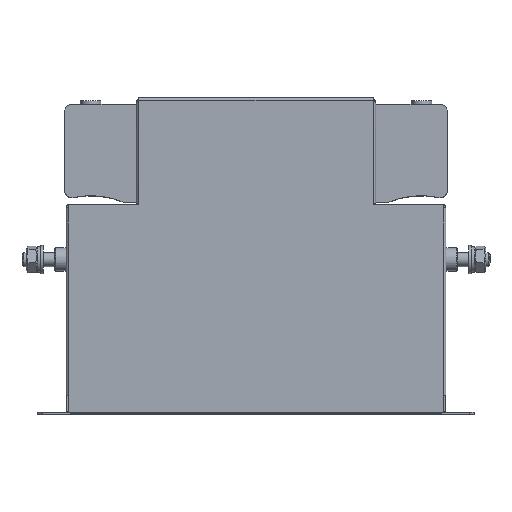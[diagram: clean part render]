
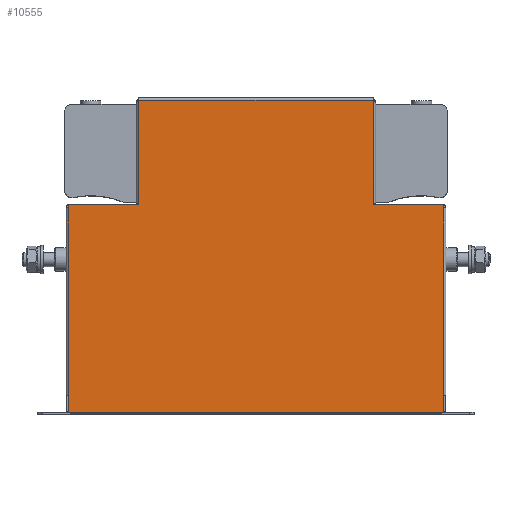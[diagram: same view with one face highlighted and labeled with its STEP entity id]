
A CAD part, top view. The second image highlights one B-rep face of the part: STEP entity #10555.
In plain terms, the highlighted planar face has unit normal (0, 0, 1).
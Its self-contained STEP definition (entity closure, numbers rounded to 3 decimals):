
#1181=FACE_OUTER_BOUND('',#1896,.T.);
#1896=EDGE_LOOP('',(#8628,#8629,#8630,#8631,#8632,#8633,#8634,#8635,#8636,
#8637));
#2978=LINE('',#17372,#3990);
#2979=LINE('',#17374,#3991);
#2980=LINE('',#17376,#3992);
#2981=LINE('',#17378,#3993);
#2982=LINE('',#17380,#3994);
#2983=LINE('',#17382,#3995);
#2984=LINE('',#17384,#3996);
#2985=LINE('',#17386,#3997);
#2986=LINE('',#17388,#3998);
#2987=LINE('',#17389,#3999);
#3990=VECTOR('',#13778,10.);
#3991=VECTOR('',#13779,10.);
#3992=VECTOR('',#13780,10.);
#3993=VECTOR('',#13781,10.);
#3994=VECTOR('',#13782,10.);
#3995=VECTOR('',#13783,10.);
#3996=VECTOR('',#13784,10.);
#3997=VECTOR('',#13785,10.);
#3998=VECTOR('',#13786,10.);
#3999=VECTOR('',#13787,10.);
#4832=VERTEX_POINT('',#17370);
#4833=VERTEX_POINT('',#17371);
#4834=VERTEX_POINT('',#17373);
#4835=VERTEX_POINT('',#17375);
#4836=VERTEX_POINT('',#17377);
#4837=VERTEX_POINT('',#17379);
#4838=VERTEX_POINT('',#17381);
#4839=VERTEX_POINT('',#17383);
#4840=VERTEX_POINT('',#17385);
#4841=VERTEX_POINT('',#17387);
#6133=EDGE_CURVE('',#4832,#4833,#2978,.T.);
#6134=EDGE_CURVE('',#4832,#4834,#2979,.T.);
#6135=EDGE_CURVE('',#4834,#4835,#2980,.T.);
#6136=EDGE_CURVE('',#4835,#4836,#2981,.T.);
#6137=EDGE_CURVE('',#4836,#4837,#2982,.T.);
#6138=EDGE_CURVE('',#4837,#4838,#2983,.T.);
#6139=EDGE_CURVE('',#4839,#4838,#2984,.T.);
#6140=EDGE_CURVE('',#4840,#4839,#2985,.T.);
#6141=EDGE_CURVE('',#4841,#4840,#2986,.T.);
#6142=EDGE_CURVE('',#4833,#4841,#2987,.T.);
#8628=ORIENTED_EDGE('',*,*,#6133,.F.);
#8629=ORIENTED_EDGE('',*,*,#6134,.T.);
#8630=ORIENTED_EDGE('',*,*,#6135,.T.);
#8631=ORIENTED_EDGE('',*,*,#6136,.T.);
#8632=ORIENTED_EDGE('',*,*,#6137,.T.);
#8633=ORIENTED_EDGE('',*,*,#6138,.T.);
#8634=ORIENTED_EDGE('',*,*,#6139,.F.);
#8635=ORIENTED_EDGE('',*,*,#6140,.F.);
#8636=ORIENTED_EDGE('',*,*,#6141,.F.);
#8637=ORIENTED_EDGE('',*,*,#6142,.F.);
#9492=PLANE('',#11338);
#10555=ADVANCED_FACE('',(#1181),#9492,.T.);
#11338=AXIS2_PLACEMENT_3D('',#17369,#13776,#13777);
#13776=DIRECTION('center_axis',(0.,0.,
1.));
#13777=DIRECTION('ref_axis',(1.,0.,0.));
#13778=DIRECTION('',(0.707,-0.707,0.));
#13779=DIRECTION('',(-1.,0.,0.));
#13780=DIRECTION('',(0.,1.,0.));
#13781=DIRECTION('',(-1.,0.,0.));
#13782=DIRECTION('',(0.,-1.,0.));
#13783=DIRECTION('',(-1.,0.,0.));
#13784=DIRECTION('',(0.707,0.707,0.));
#13785=DIRECTION('',(0.,1.,0.));
#13786=DIRECTION('',(-1.,0.,0.));
#13787=DIRECTION('',(0.,-1.,0.));
#17369=CARTESIAN_POINT('Origin',(0.,113.,49.75));
#17370=CARTESIAN_POINT('',(132.5,149.,49.75));
#17371=CARTESIAN_POINT('',(133.5,148.,49.75));
#17372=CARTESIAN_POINT('',(108.625,172.875,49.75));
#17373=CARTESIAN_POINT('',(83.5,149.,49.75));
#17374=CARTESIAN_POINT('',(66.75,149.,49.75));
#17375=CARTESIAN_POINT('',(83.5,223.2,49.75));
#17376=CARTESIAN_POINT('',(83.5,131.,49.75));
#17377=CARTESIAN_POINT('',(-83.5,223.2,49.75));
#17378=CARTESIAN_POINT('',(41.75,223.2,49.75));
#17379=CARTESIAN_POINT('',(-83.5,149.,49.75));
#17380=CARTESIAN_POINT('',(-83.5,169.,49.75));
#17381=CARTESIAN_POINT('',(-132.5,149.,49.75));
#17382=CARTESIAN_POINT('',(-41.75,149.,49.75));
#17383=CARTESIAN_POINT('',(-133.5,148.,49.75));
#17384=CARTESIAN_POINT('',(-108.625,172.875,49.75));
#17385=CARTESIAN_POINT('',(-133.5,1.,49.75));
#17386=CARTESIAN_POINT('',(-133.5,225.,49.75));
#17387=CARTESIAN_POINT('',(133.5,1.,49.75));
#17388=CARTESIAN_POINT('',(-133.5,1.,49.75));
#17389=CARTESIAN_POINT('',(133.5,1.,49.75));
